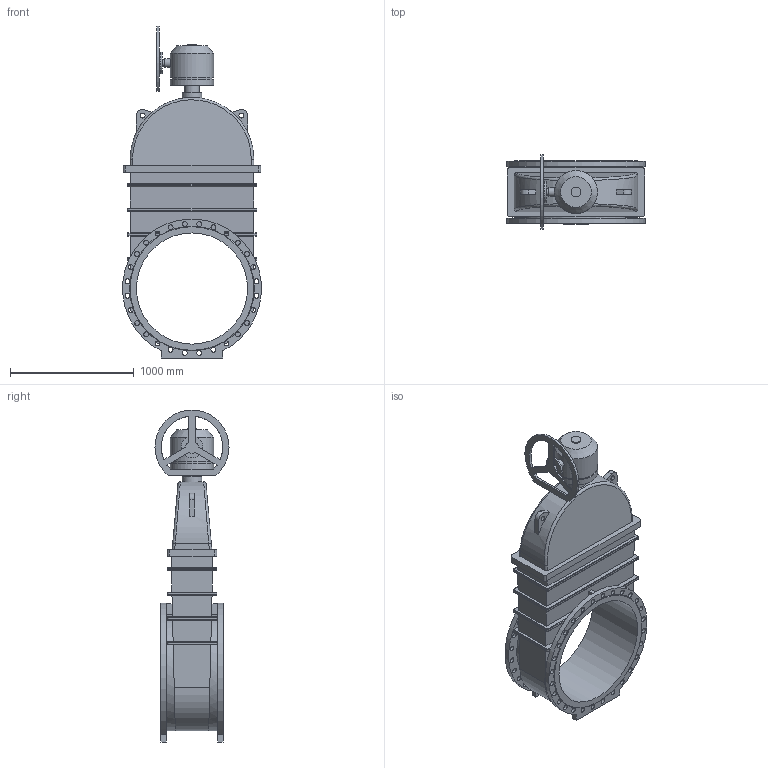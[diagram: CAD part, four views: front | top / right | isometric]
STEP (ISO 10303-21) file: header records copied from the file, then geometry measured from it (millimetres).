
FILE_DESCRIPTION(('STEP AP203'), '1');
FILE_NAME('Çàäâèæêà 47GV.Z DN900 PN16 + ðåäóêòîð ñ ìàõîâèêîì', '', ('UNSPECIFIED'), ('UNSPECIFIED'), 'ASCON STEP Converter 1.6', 'ASCON Math Kernel', '');
FILE_SCHEMA(('CONFIG_CONTROL_DESIGN'));
Length unit declared in the file: millimetre
Bounding box: 1122.05 x 600 x 2687.5 mm (x, y, z)
Volume: 455050664.2 mm3; surface area: 9257109.1 mm2
Topology: 1 solids, 1 shells, 298 faces, 754 edges, 479 vertices
Faces by surface type: cylinder 145, plane 116, bspline 34, cone 3
Full cylindrical faces by diameter (mm): 30 x1, 40 x58, 50 x1, 70 x1, 80 x1, 100 x1, 120 x1, 160 x1, 175 x1, 330 x1, 350 x2, 900 x1
Entity records: 15005 total; most frequent: CARTESIAN_POINT 5670, ORIENTED_EDGE 1362, DIRECTION 1346, EDGE_CURVE 681, EDGE_LOOP 516, AXIS2_PLACEMENT_3D 514, VERTEX_POINT 479, FACE_BOUND 371
